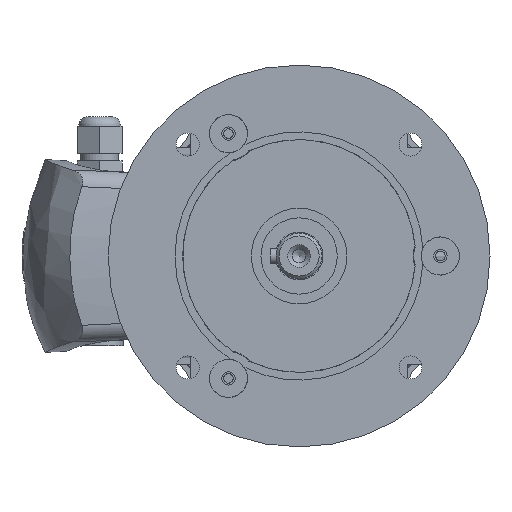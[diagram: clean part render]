
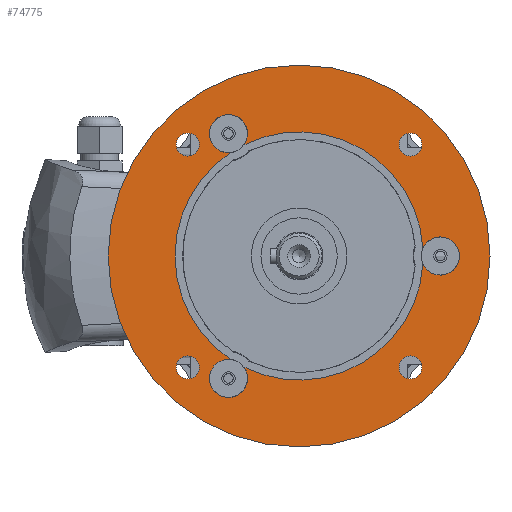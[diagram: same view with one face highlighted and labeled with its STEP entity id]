
A CAD part, left-side view. The second image highlights one B-rep face of the part: STEP entity #74775.
In plain terms, the highlighted planar face has unit normal (-1, 0, 0).
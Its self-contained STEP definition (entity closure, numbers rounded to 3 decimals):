
#72533=CARTESIAN_POINT('',(3.5,-58.336,52.336));
#72534=VERTEX_POINT('',#72533);
#72535=CARTESIAN_POINT('',(3.5,-58.336,58.336));
#72536=DIRECTION('',(1.0,0.0,0.0));
#72537=DIRECTION('',(0.0,0.0,1.0));
#72538=AXIS2_PLACEMENT_3D('',#72535,#72536,#72537);
#72539=CIRCLE('',#72538,6.);
#72540=EDGE_CURVE('',#72534,#72534,#72539,.T.);
#72561=CARTESIAN_POINT('',(3.5,58.336,52.336));
#72562=VERTEX_POINT('',#72561);
#72563=CARTESIAN_POINT('',(3.5,58.336,58.336));
#72564=DIRECTION('',(1.0,0.0,0.0));
#72565=DIRECTION('',(0.0,0.0,1.0));
#72566=AXIS2_PLACEMENT_3D('',#72563,#72564,#72565);
#72567=CIRCLE('',#72566,6.);
#72568=EDGE_CURVE('',#72562,#72562,#72567,.T.);
#72589=CARTESIAN_POINT('',(3.5,58.336,-64.336));
#72590=VERTEX_POINT('',#72589);
#72591=CARTESIAN_POINT('',(3.5,58.336,-58.336));
#72592=DIRECTION('',(1.0,0.0,0.0));
#72593=DIRECTION('',(0.0,0.0,1.0));
#72594=AXIS2_PLACEMENT_3D('',#72591,#72592,#72593);
#72595=CIRCLE('',#72594,6.);
#72596=EDGE_CURVE('',#72590,#72590,#72595,.T.);
#72617=CARTESIAN_POINT('',(3.5,-58.336,-64.336));
#72618=VERTEX_POINT('',#72617);
#72619=CARTESIAN_POINT('',(3.5,-58.336,-58.336));
#72620=DIRECTION('',(1.0,0.0,0.0));
#72621=DIRECTION('',(0.0,0.0,1.0));
#72622=AXIS2_PLACEMENT_3D('',#72619,#72620,#72621);
#72623=CIRCLE('',#72622,6.);
#72624=EDGE_CURVE('',#72618,#72618,#72623,.T.);
#73052=CARTESIAN_POINT('',(3.5,28.9,58.222));
#73053=VERTEX_POINT('',#73052);
#73054=CARTESIAN_POINT('',(3.5,35.972,54.139));
#73055=VERTEX_POINT('',#73054);
#73056=CARTESIAN_POINT('',(3.5,37.,64.086));
#73057=DIRECTION('',(-1.0,0.0,0.0));
#73058=DIRECTION('',(0.0,0.0,1.0));
#73059=AXIS2_PLACEMENT_3D('',#73056,#73057,#73058);
#73060=CIRCLE('',#73059,10.);
#73061=EDGE_CURVE('',#73053,#73055,#73060,.T.);
#73105=CARTESIAN_POINT('',(3.5,35.972,-54.139));
#73106=VERTEX_POINT('',#73105);
#73107=CARTESIAN_POINT('',(3.5,28.9,-58.222));
#73108=VERTEX_POINT('',#73107);
#73109=CARTESIAN_POINT('',(3.5,37.,-64.086));
#73110=DIRECTION('',(-1.0,0.0,0.0));
#73111=DIRECTION('',(0.0,0.0,1.0));
#73112=AXIS2_PLACEMENT_3D('',#73109,#73110,#73111);
#73113=CIRCLE('',#73112,10.);
#73114=EDGE_CURVE('',#73106,#73108,#73113,.T.);
#73158=CARTESIAN_POINT('',(3.5,-64.872,-4.083));
#73159=VERTEX_POINT('',#73158);
#73160=CARTESIAN_POINT('',(3.5,-64.872,4.083));
#73161=VERTEX_POINT('',#73160);
#73162=CARTESIAN_POINT('',(3.5,-74.0,0.0));
#73163=DIRECTION('',(-1.0,0.0,0.0));
#73164=DIRECTION('',(0.0,0.0,1.0));
#73165=AXIS2_PLACEMENT_3D('',#73162,#73163,#73164);
#73166=CIRCLE('',#73165,10.0);
#73167=EDGE_CURVE('',#73159,#73161,#73166,.T.);
#73500=CARTESIAN_POINT('',(3.5,0.0,0.0));
#73501=DIRECTION('',(-1.0,0.0,0.0));
#73502=DIRECTION('',(0.0,0.0,1.0));
#73503=AXIS2_PLACEMENT_3D('',#73500,#73501,#73502);
#73504=CIRCLE('',#73503,65.0);
#73505=EDGE_CURVE('',#73161,#73053,#73504,.T.);
#73535=CARTESIAN_POINT('',(3.5,0.0,100.0));
#73536=VERTEX_POINT('',#73535);
#73537=CARTESIAN_POINT('',(3.5,0.0,0.0));
#73538=DIRECTION('',(-1.0,0.0,0.0));
#73539=DIRECTION('',(0.0,0.0,1.0));
#73540=AXIS2_PLACEMENT_3D('',#73537,#73538,#73539);
#73541=CIRCLE('',#73540,100.0);
#73542=EDGE_CURVE('',#73536,#73536,#73541,.T.);
#74539=CARTESIAN_POINT('',(3.5,0.0,0.0));
#74540=DIRECTION('',(-1.0,0.0,0.0));
#74541=DIRECTION('',(0.0,0.0,1.0));
#74542=AXIS2_PLACEMENT_3D('',#74539,#74540,#74541);
#74543=CIRCLE('',#74542,65.0);
#74544=EDGE_CURVE('',#73055,#73106,#74543,.T.);
#74563=CARTESIAN_POINT('',(3.5,0.0,0.0));
#74564=DIRECTION('',(-1.0,0.0,0.0));
#74565=DIRECTION('',(0.0,0.0,1.0));
#74566=AXIS2_PLACEMENT_3D('',#74563,#74564,#74565);
#74567=CIRCLE('',#74566,65.0);
#74568=EDGE_CURVE('',#73108,#73159,#74567,.T.);
#74747=CARTESIAN_POINT('',(3.5,100.0,0.0));
#74748=DIRECTION('',(-1.0,0.0,0.0));
#74749=DIRECTION('',(0.0,0.0,1.0));
#74750=AXIS2_PLACEMENT_3D('',#74747,#74748,#74749);
#74751=PLANE('',#74750);
#74752=ORIENTED_EDGE('',*,*,#73542,.T.);
#74753=EDGE_LOOP('',(#74752));
#74754=FACE_OUTER_BOUND('',#74753,.T.);
#74755=ORIENTED_EDGE('',*,*,#72568,.T.);
#74756=EDGE_LOOP('',(#74755));
#74757=FACE_BOUND('',#74756,.T.);
#74758=ORIENTED_EDGE('',*,*,#72596,.T.);
#74759=EDGE_LOOP('',(#74758));
#74760=FACE_BOUND('',#74759,.T.);
#74761=ORIENTED_EDGE('',*,*,#72624,.T.);
#74762=EDGE_LOOP('',(#74761));
#74763=FACE_BOUND('',#74762,.T.);
#74764=ORIENTED_EDGE('',*,*,#73061,.F.);
#74765=ORIENTED_EDGE('',*,*,#73505,.F.);
#74766=ORIENTED_EDGE('',*,*,#73167,.F.);
#74767=ORIENTED_EDGE('',*,*,#74568,.F.);
#74768=ORIENTED_EDGE('',*,*,#73114,.F.);
#74769=ORIENTED_EDGE('',*,*,#74544,.F.);
#74770=EDGE_LOOP('',(#74764,#74765,#74766,#74767,#74768,#74769));
#74771=FACE_BOUND('',#74770,.T.);
#74772=ORIENTED_EDGE('',*,*,#72540,.T.);
#74773=EDGE_LOOP('',(#74772));
#74774=FACE_BOUND('',#74773,.T.);
#74775=ADVANCED_FACE('',(#74754,#74757,#74760,#74763,#74771,#74774),#74751,.T.);
